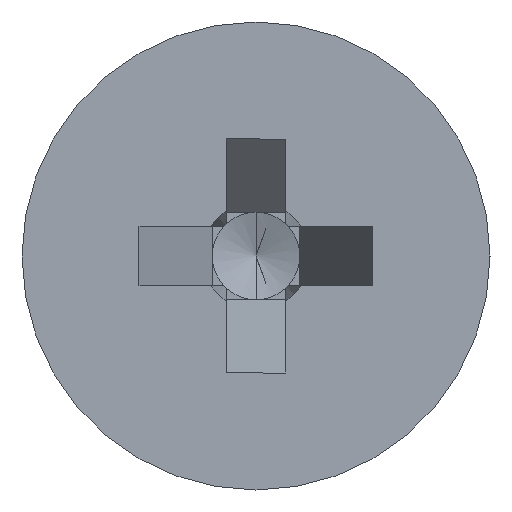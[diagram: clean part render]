
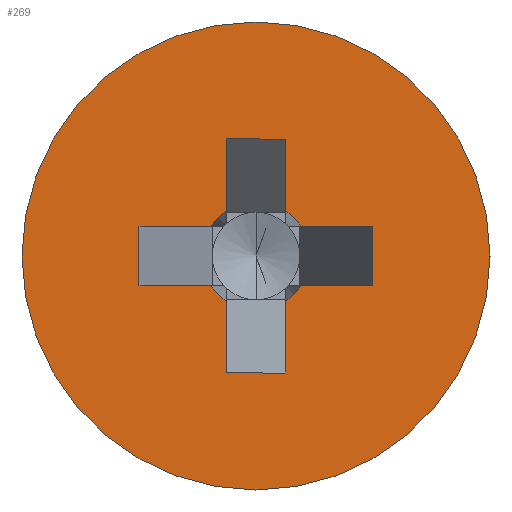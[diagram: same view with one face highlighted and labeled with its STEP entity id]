
A CAD part, left-side view. The second image highlights one B-rep face of the part: STEP entity #269.
In plain terms, the highlighted planar face has unit normal (-1, 0, 0).
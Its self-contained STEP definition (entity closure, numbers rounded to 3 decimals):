
#2 = CARTESIAN_POINT ( 'NONE',  ( 0., -0.24, 0.95 ) ) ;
#7 = EDGE_CURVE ( 'NONE', #40, #766, #463, .T. ) ;
#9 = VECTOR ( 'NONE', #42, 1000. ) ;
#13 = CARTESIAN_POINT ( 'NONE',  ( 0., -0.368, 0.24 ) ) ;
#30 = ORIENTED_EDGE ( 'NONE', *, *, #75, .T. ) ;
#39 = VECTOR ( 'NONE', #651, 1000. ) ;
#40 = VERTEX_POINT ( 'NONE', #723 ) ;
#42 = DIRECTION ( 'NONE',  ( 0., 0., 1. ) ) ;
#47 = DIRECTION ( 'NONE',  ( -1., 0., 0. ) ) ;
#60 = ORIENTED_EDGE ( 'NONE', *, *, #948, .T. ) ;
#75 = EDGE_CURVE ( 'NONE', #904, #957, #1097, .T. ) ;
#92 = EDGE_CURVE ( 'NONE', #1007, #278, #669, .T. ) ;
#103 = VERTEX_POINT ( 'NONE', #548 ) ;
#115 = LINE ( 'NONE', #226, #232 ) ;
#132 = VERTEX_POINT ( 'NONE', #748 ) ;
#133 = CARTESIAN_POINT ( 'NONE',  ( 0., 0., 0. ) ) ;
#181 = CARTESIAN_POINT ( 'NONE',  ( 0., 0.24, -0.95 ) ) ;
#214 = CARTESIAN_POINT ( 'NONE',  ( 0., 0.24, 0.95 ) ) ;
#221 = ORIENTED_EDGE ( 'NONE', *, *, #311, .F. ) ;
#226 = CARTESIAN_POINT ( 'NONE',  ( 0., 0.95, 0.24 ) ) ;
#228 = DIRECTION ( 'NONE',  ( -1., 0., 0. ) ) ;
#230 = ORIENTED_EDGE ( 'NONE', *, *, #1162, .F. ) ;
#232 = VECTOR ( 'NONE', #1047, 1000. ) ;
#239 = DIRECTION ( 'NONE',  ( -1., 0., 0. ) ) ;
#244 = CARTESIAN_POINT ( 'NONE',  ( 0., -0.24, -0.95 ) ) ;
#250 = EDGE_LOOP ( 'NONE', ( #655, #30 ) ) ;
#260 = ORIENTED_EDGE ( 'NONE', *, *, #632, .T. ) ;
#262 = DIRECTION ( 'NONE',  ( 0., 0., -1. ) ) ;
#269 = ADVANCED_FACE ( 'NONE', ( #896, #714 ), #683, .T. ) ;
#272 = LINE ( 'NONE', #368, #457 ) ;
#274 = CIRCLE ( 'NONE', #521, 0.439 ) ;
#277 = CARTESIAN_POINT ( 'NONE',  ( 0., 0.24, 0.95 ) ) ;
#278 = VERTEX_POINT ( 'NONE', #678 ) ;
#279 = AXIS2_PLACEMENT_3D ( 'NONE', #918, #366, #1013 ) ;
#284 = EDGE_CURVE ( 'NONE', #872, #103, #115, .T. ) ;
#311 = EDGE_CURVE ( 'NONE', #886, #132, #274, .T. ) ;
#312 = CARTESIAN_POINT ( 'NONE',  ( 0., -0.24, -0.368 ) ) ;
#341 = VECTOR ( 'NONE', #646, 1000. ) ;
#344 = ORIENTED_EDGE ( 'NONE', *, *, #284, .T. ) ;
#361 = DIRECTION ( 'NONE',  ( 0., 0., 1. ) ) ;
#366 = DIRECTION ( 'NONE',  ( -1., 0., 0. ) ) ;
#368 = CARTESIAN_POINT ( 'NONE',  ( 0., -0.24, 0.95 ) ) ;
#369 = CARTESIAN_POINT ( 'NONE',  ( 0., -0.95, -0.24 ) ) ;
#370 = LINE ( 'NONE', #2, #341 ) ;
#374 = ORIENTED_EDGE ( 'NONE', *, *, #690, .T. ) ;
#375 = AXIS2_PLACEMENT_3D ( 'NONE', #946, #563, #754 ) ;
#382 = EDGE_CURVE ( 'NONE', #957, #904, #675, .T. ) ;
#397 = DIRECTION ( 'NONE',  ( 0., 0., 1. ) ) ;
#413 = CIRCLE ( 'NONE', #874, 0.439 ) ;
#418 = ORIENTED_EDGE ( 'NONE', *, *, #92, .T. ) ;
#426 = VECTOR ( 'NONE', #913, 1000. ) ;
#427 = CIRCLE ( 'NONE', #375, 0.439 ) ;
#433 = VERTEX_POINT ( 'NONE', #892 ) ;
#440 = VERTEX_POINT ( 'NONE', #706 ) ;
#446 = VERTEX_POINT ( 'NONE', #616 ) ;
#457 = VECTOR ( 'NONE', #635, 1000. ) ;
#463 = LINE ( 'NONE', #181, #816 ) ;
#474 = DIRECTION ( 'NONE',  ( 0., 0., 1. ) ) ;
#482 = CARTESIAN_POINT ( 'NONE',  ( 0., 0.95, -0.24 ) ) ;
#490 = VECTOR ( 'NONE', #924, 1000. ) ;
#500 = CIRCLE ( 'NONE', #677, 0.439 ) ;
#516 = ORIENTED_EDGE ( 'NONE', *, *, #735, .T. ) ;
#521 = AXIS2_PLACEMENT_3D ( 'NONE', #665, #47, #1140 ) ;
#542 = ORIENTED_EDGE ( 'NONE', *, *, #1126, .T. ) ;
#548 = CARTESIAN_POINT ( 'NONE',  ( 0., 0.368, 0.24 ) ) ;
#553 = CARTESIAN_POINT ( 'NONE',  ( 0., -0.24, -0.95 ) ) ;
#563 = DIRECTION ( 'NONE',  ( -1., 0., 0. ) ) ;
#565 = CARTESIAN_POINT ( 'NONE',  ( 0., -0.95, -0.24 ) ) ;
#583 = AXIS2_PLACEMENT_3D ( 'NONE', #133, #228, #397 ) ;
#616 = CARTESIAN_POINT ( 'NONE',  ( 0., -0.95, 0.24 ) ) ;
#632 = EDGE_CURVE ( 'NONE', #967, #793, #642, .T. ) ;
#635 = DIRECTION ( 'NONE',  ( 0., 0., -1. ) ) ;
#642 = LINE ( 'NONE', #553, #1068 ) ;
#645 = ORIENTED_EDGE ( 'NONE', *, *, #718, .T. ) ;
#646 = DIRECTION ( 'NONE',  ( 0., 0., -1. ) ) ;
#650 = CARTESIAN_POINT ( 'NONE',  ( 0., -0.24, 0.368 ) ) ;
#651 = DIRECTION ( 'NONE',  ( 0., 0., 1. ) ) ;
#653 = EDGE_CURVE ( 'NONE', #730, #967, #370, .T. ) ;
#655 = ORIENTED_EDGE ( 'NONE', *, *, #382, .T. ) ;
#656 = LINE ( 'NONE', #277, #490 ) ;
#660 = CARTESIAN_POINT ( 'NONE',  ( 0., 0., 0. ) ) ;
#665 = CARTESIAN_POINT ( 'NONE',  ( 0., 0., 0. ) ) ;
#668 = VECTOR ( 'NONE', #715, 1000. ) ;
#669 = LINE ( 'NONE', #369, #426 ) ;
#670 = VECTOR ( 'NONE', #1124, 1000. ) ;
#673 = VERTEX_POINT ( 'NONE', #650 ) ;
#675 = CIRCLE ( 'NONE', #1076, 1.9 ) ;
#677 = AXIS2_PLACEMENT_3D ( 'NONE', #660, #960, #474 ) ;
#678 = CARTESIAN_POINT ( 'NONE',  ( 0., -0.368, -0.24 ) ) ;
#682 = CARTESIAN_POINT ( 'NONE',  ( 0., 0.95, 0.24 ) ) ;
#683 = PLANE ( 'NONE',  #583 ) ;
#690 = EDGE_CURVE ( 'NONE', #766, #433, #656, .T. ) ;
#706 = CARTESIAN_POINT ( 'NONE',  ( 0., 0.95, -0.24 ) ) ;
#714 = FACE_BOUND ( 'NONE', #1072, .T. ) ;
#715 = DIRECTION ( 'NONE',  ( 0., -1., 0. ) ) ;
#718 = EDGE_CURVE ( 'NONE', #433, #673, #272, .T. ) ;
#723 = CARTESIAN_POINT ( 'NONE',  ( 0., 0.24, 0.368 ) ) ;
#730 = VERTEX_POINT ( 'NONE', #312 ) ;
#735 = EDGE_CURVE ( 'NONE', #886, #440, #920, .T. ) ;
#742 = LINE ( 'NONE', #930, #39 ) ;
#748 = CARTESIAN_POINT ( 'NONE',  ( 0., 0.24, -0.368 ) ) ;
#754 = DIRECTION ( 'NONE',  ( 0., 0., 1. ) ) ;
#766 = VERTEX_POINT ( 'NONE', #214 ) ;
#778 = EDGE_CURVE ( 'NONE', #40, #103, #427, .T. ) ;
#786 = EDGE_CURVE ( 'NONE', #440, #872, #851, .T. ) ;
#793 = VERTEX_POINT ( 'NONE', #854 ) ;
#799 = ORIENTED_EDGE ( 'NONE', *, *, #7, .T. ) ;
#816 = VECTOR ( 'NONE', #361, 1000. ) ;
#821 = CARTESIAN_POINT ( 'NONE',  ( 0., 0., 1.9 ) ) ;
#851 = LINE ( 'NONE', #482, #9 ) ;
#854 = CARTESIAN_POINT ( 'NONE',  ( 0., 0.24, -0.95 ) ) ;
#870 = ORIENTED_EDGE ( 'NONE', *, *, #653, .T. ) ;
#871 = CARTESIAN_POINT ( 'NONE',  ( 0., 0., -1.9 ) ) ;
#872 = VERTEX_POINT ( 'NONE', #1146 ) ;
#874 = AXIS2_PLACEMENT_3D ( 'NONE', #1051, #965, #1148 ) ;
#882 = ORIENTED_EDGE ( 'NONE', *, *, #786, .T. ) ;
#884 = CARTESIAN_POINT ( 'NONE',  ( 0., 0., 0. ) ) ;
#886 = VERTEX_POINT ( 'NONE', #1061 ) ;
#892 = CARTESIAN_POINT ( 'NONE',  ( 0., -0.24, 0.95 ) ) ;
#896 = FACE_OUTER_BOUND ( 'NONE', #250, .T. ) ;
#904 = VERTEX_POINT ( 'NONE', #871 ) ;
#907 = EDGE_CURVE ( 'NONE', #730, #278, #413, .T. ) ;
#913 = DIRECTION ( 'NONE',  ( 0., 1., 0. ) ) ;
#918 = CARTESIAN_POINT ( 'NONE',  ( 0., 0., 0. ) ) ;
#920 = LINE ( 'NONE', #565, #670 ) ;
#924 = DIRECTION ( 'NONE',  ( 0., -1., 0. ) ) ;
#930 = CARTESIAN_POINT ( 'NONE',  ( 0., 0.24, -0.95 ) ) ;
#946 = CARTESIAN_POINT ( 'NONE',  ( 0., 0., 0. ) ) ;
#948 = EDGE_CURVE ( 'NONE', #1151, #446, #1065, .T. ) ;
#957 = VERTEX_POINT ( 'NONE', #821 ) ;
#960 = DIRECTION ( 'NONE',  ( -1., 0., 0. ) ) ;
#965 = DIRECTION ( 'NONE',  ( -1., 0., 0. ) ) ;
#967 = VERTEX_POINT ( 'NONE', #244 ) ;
#974 = DIRECTION ( 'NONE',  ( 0., 0., 1. ) ) ;
#975 = CARTESIAN_POINT ( 'NONE',  ( 0., -0.95, 0.24 ) ) ;
#991 = LINE ( 'NONE', #975, #1137 ) ;
#1000 = EDGE_CURVE ( 'NONE', #446, #1007, #991, .T. ) ;
#1007 = VERTEX_POINT ( 'NONE', #1160 ) ;
#1013 = DIRECTION ( 'NONE',  ( 0., 0., 1. ) ) ;
#1047 = DIRECTION ( 'NONE',  ( 0., -1., 0. ) ) ;
#1051 = CARTESIAN_POINT ( 'NONE',  ( 0., 0., 0. ) ) ;
#1057 = ORIENTED_EDGE ( 'NONE', *, *, #907, .F. ) ;
#1061 = CARTESIAN_POINT ( 'NONE',  ( 0., 0.368, -0.24 ) ) ;
#1065 = LINE ( 'NONE', #682, #668 ) ;
#1068 = VECTOR ( 'NONE', #1115, 1000. ) ;
#1072 = EDGE_LOOP ( 'NONE', ( #645, #230, #60, #1083, #418, #1057, #870, #260, #542, #221, #516, #882, #344, #1073, #799, #374 ) ) ;
#1073 = ORIENTED_EDGE ( 'NONE', *, *, #778, .F. ) ;
#1076 = AXIS2_PLACEMENT_3D ( 'NONE', #884, #239, #974 ) ;
#1083 = ORIENTED_EDGE ( 'NONE', *, *, #1000, .T. ) ;
#1097 = CIRCLE ( 'NONE', #279, 1.9 ) ;
#1115 = DIRECTION ( 'NONE',  ( 0., 1., 0. ) ) ;
#1124 = DIRECTION ( 'NONE',  ( 0., 1., 0. ) ) ;
#1126 = EDGE_CURVE ( 'NONE', #793, #132, #742, .T. ) ;
#1137 = VECTOR ( 'NONE', #262, 1000. ) ;
#1140 = DIRECTION ( 'NONE',  ( 0., 0., 1. ) ) ;
#1146 = CARTESIAN_POINT ( 'NONE',  ( 0., 0.95, 0.24 ) ) ;
#1148 = DIRECTION ( 'NONE',  ( 0., 0., 1. ) ) ;
#1151 = VERTEX_POINT ( 'NONE', #13 ) ;
#1160 = CARTESIAN_POINT ( 'NONE',  ( 0., -0.95, -0.24 ) ) ;
#1162 = EDGE_CURVE ( 'NONE', #1151, #673, #500, .T. ) ;
